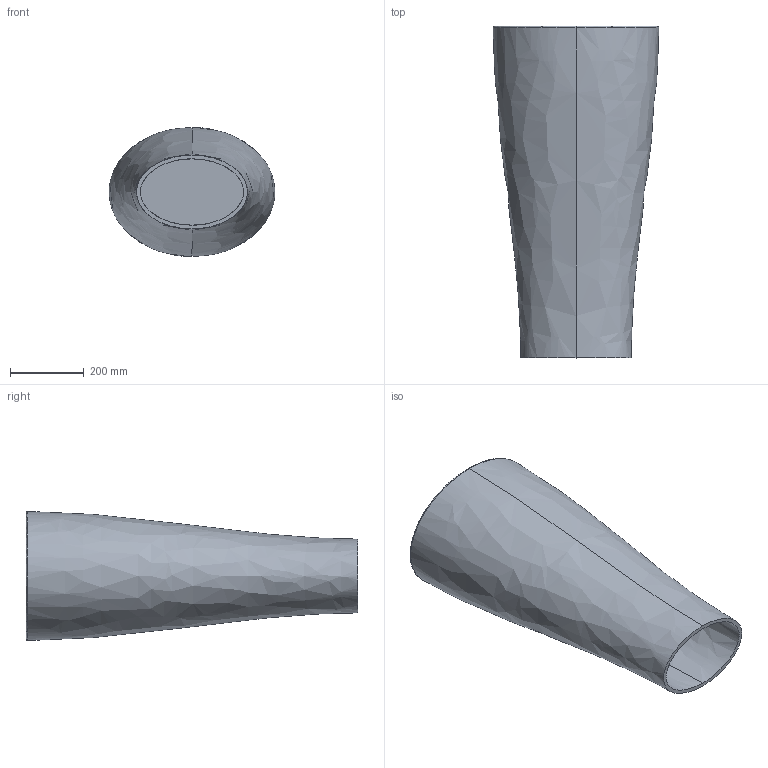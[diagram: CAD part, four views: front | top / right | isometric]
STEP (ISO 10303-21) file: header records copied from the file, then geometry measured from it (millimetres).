
FILE_DESCRIPTION((''),'2;1');
FILE_NAME('F4181_2014_ASM','2014-06-06T',('ivanv'),(''),'PRO/ENGINEER BY PARAMETRIC TECHNOLOGY CORPORATION, 2012130','PRO/ENGINEER BY PARAMETRIC TECHNOLOGY CORPORATION, 2012130','');
FILE_SCHEMA(('CONFIG_CONTROL_DESIGN'));
Length unit declared in the file: millimetre
Products named in the file (2): LAVABO_CENTROSALA_OVALE; F4181_2014_ASM
Assembly tree (1 placements, depth 2):
  F4181_2014_ASM
    LAVABO_CENTROSALA_OVALE
Bounding box: 449.45 x 900 x 349.99 mm (x, y, z)
Volume: 12204233 mm3; surface area: 2425324 mm2
Topology: 1 solids, 1 shells, 19 faces, 36 edges, 22 vertices
Faces by surface type: bspline 14, plane 5
Entity records: 2595 total; most frequent: CARTESIAN_POINT 2240, ORIENTED_EDGE 72, EDGE_CURVE 36, DIRECTION 32, B_SPLINE_CURVE_WITH_KNOTS 26, VERTEX_POINT 22, EDGE_LOOP 22, FACE_OUTER_BOUND 19
